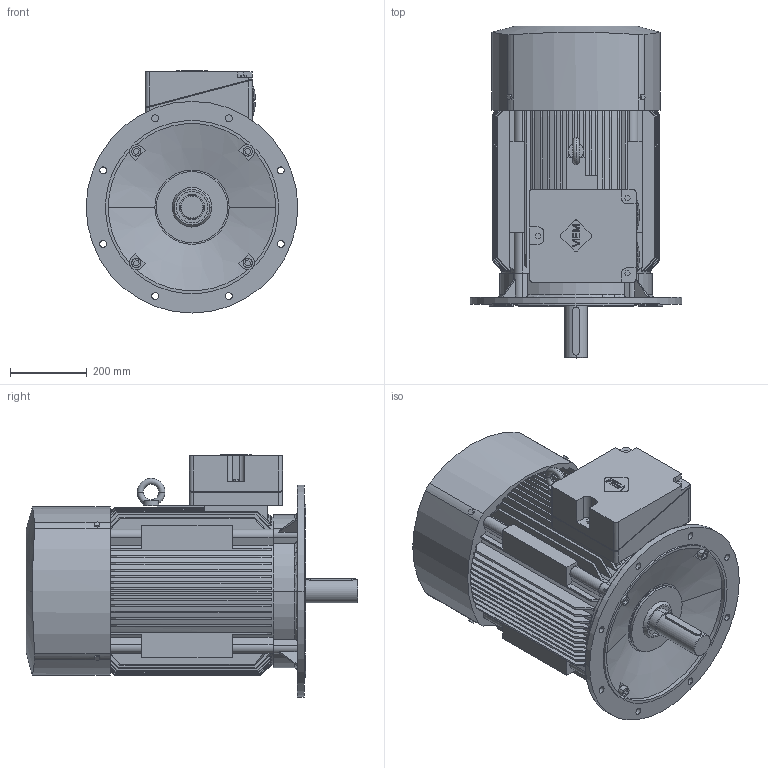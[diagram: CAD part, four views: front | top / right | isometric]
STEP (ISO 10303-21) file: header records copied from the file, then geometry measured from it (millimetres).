
FILE_DESCRIPTION(('STEP AP214'),'1');
FILE_NAME('cctmp_9BA2E43C-02FC-401A-AE4E-F7F4B577CC4D_2026_02_10_12_54_45_0854..stp','2026-02-10T11:54:46',('VEM motors GmbH'),('CADClick - www.CADClick.com'),'Spatial InterOp 3D postprocessed',' ','unknown authorization');
FILE_SCHEMA(('AUTOMOTIVE_DESIGN'));
Length unit declared in the file: millimetre
Products named in the file (1): 2026_02_10_12_54_45_0854
Bounding box: 550 x 862.5 x 629 mm (x, y, z)
Volume: 109515693.5 mm3; surface area: 3137062.3 mm2
Topology: 1 solids, 1 shells, 741 faces, 2102 edges, 1394 vertices
Faces by surface type: plane 412, cylinder 183, cone 126, torus 16, bspline 4
Entity records: 30632 total; most frequent: CARTESIAN_POINT 9624, ORIENTED_EDGE 4204, DIRECTION 3692, EDGE_CURVE 2102, VERTEX_POINT 1394, AXIS2_PLACEMENT_3D 1258, LINE 1176, VECTOR 1176
